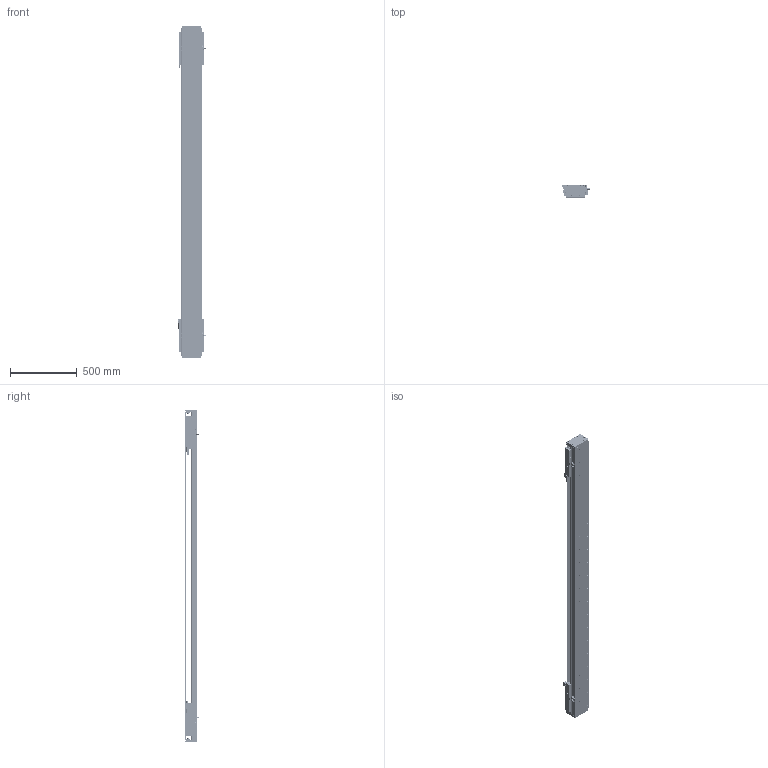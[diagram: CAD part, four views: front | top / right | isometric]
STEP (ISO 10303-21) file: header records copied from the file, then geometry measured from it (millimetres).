
FILE_DESCRIPTION (( 'STEP AP203' ), '1' );
FILE_NAME ('DA-C145-2-C3-T1880-C010-0.2 眻盄萇儂.STEP', '2025-08-13T10:24:45', ( '' ), ( '' ), 'SwSTEP 2.0', 'SolidWorks 2019', '' );
FILE_SCHEMA (( 'CONFIG_CONTROL_DESIGN' ));
Length unit declared in the file: millimetre
Products named in the file (38): 葩璃 DA95-GT-T-00^IU-CU145-L 菁釱絳寢; 葩璃 PM-Y65^DA-C145-2-C3-T-C010-0.2; DKW-GYP-ZJ-00 笢潔嫖萇覜茼え; 葩璃 PM-T45^DA-C145-2-C3-T-C010-0.2; 葩璃 DA145-C3-DP-A-00 菜えA^CU145-W 幗紩賑怢; 葩璃 DA145-C3-DP-B-00 菜えB^CU145-W 幗紩賑怢; DKW-KGZ-ZJ-00 中间光电开关支架; 复件 半圆头内六角螺钉 M3×6^CU145-W 滚珠滑台; 复件 内六角平端紧定螺钉 GB.T77-2000 M5×10^CU145-W 滚珠滑台; CU145-W 幗紩賑怢; 复件 DA95-HK-GT-00 滑块钢轨^CU145-W-00 一体化滑动台板; 葩璃 CKM03-W060-C1C2-TP-0.2^DA-C145-2-C3-T-C010-0.2; IU-CU145-L 菁釱絳寢; 复件 DA145-C3-YB-B-00 压板B^CU145-W 滚珠滑台; 复件 DA145-DG 钢带端盖^复件 CU145 钢带组件_DA-C145-2-C3-T-C010-0.2; 葩璃 DA95-HXJ-00 遣喳砎蝶^DA-C145-2-C3-T-C010-0.2; 葩璃 XD-U-02L 棠掑喜^DA-C145-2-C3-T-C010-0.2; CU145-W-00 珨极趙賑雄怢啣; 复件 DA145-C3-DK-00 挡块^CU145-W 滚珠滑台; CU145-W-00 珨极趙賑雄怢啣-1; 复件 DA146 钢带垫块^复件 CU145 钢带组件_DA-C145-2-C3-T-C010-0.2; DKW168-HXJ-ZJ-00 笢潔滅袉砎蝶; 66245-CU145-HT-W-00 賑雄怢啣(3D芞祧)(00); 复件 DA146 钢带拉块^复件 CU145 钢带组件_DA-C145-2-C3-T-C010-0.2; 葩璃 CKMA01-W060-TRL^DA-C145-2-C3-T-C010-0.2; DA-C145-2-C3-T1880-C010-0.2 眻盄萇儂; 复件 DA95-DB-00  挡板^CU145-W 滚珠滑台; CU145-W 幗紩賑怢-1; IU-CU145-L-00 菁釱(L2460); TAY01-M8; 葩璃 DMA-010-0.2 黍杅芛^DA-C145-2-C3-T-C010-0.2; 复件 DA145 钢带^复件 CU145 钢带组件_DA-C145-2-C3-T-C010-0.2; 复件 DA145-C3-YB-A-00 压板A^CU145-W 滚珠滑台; 葩璃 CU145 詩湍郪璃^DA-C145-2-C3-T-C010-0.2; 复件 DA95-MFP-01 密封片^CU145-W 滚珠滑台; 复件 DA145-GYP-00 光电感应片^DA-C145-2-C3-T-C010-0.2; 复件 纯铜油杯 6x6mm^CU145-W 滚珠滑台; 葩璃 鞠褒情蹟譫 M3^DA-C145-2-C3-T-C010-0.2
Assembly tree (180 placements, depth 4):
  DA-C145-2-C3-T1880-C010-0.2 眻盄萇儂
    IU-CU145-L 菁釱絳寢
      IU-CU145-L-00 菁釱(L2460)
      葩璃 DA95-GT-T-00^IU-CU145-L 菁釱絳寢  x4
    葩璃 CU145 詩湍郪璃^DA-C145-2-C3-T-C010-0.2
      复件 DA145-DG 钢带端盖^复件 CU145 钢带组件_DA-C145-2-C3-T-C010-0.2  x2
      复件 DA146 钢带拉块^复件 CU145 钢带组件_DA-C145-2-C3-T-C010-0.2  x2
      复件 DA146 钢带垫块^复件 CU145 钢带组件_DA-C145-2-C3-T-C010-0.2  x2
      复件 DA145 钢带^复件 CU145 钢带组件_DA-C145-2-C3-T-C010-0.2
    CU145-W 幗紩賑怢
      CU145-W-00 珨极趙賑雄怢啣
        66245-CU145-HT-W-00 賑雄怢啣(3D芞祧)(00)
        复件 DA95-HK-GT-00 滑块钢轨^CU145-W-00 一体化滑动台板  x8
      复件 DA95-MFP-01 密封片^CU145-W 滚珠滑台  x8
      复件 DA95-DB-00  挡板^CU145-W 滚珠滑台  x8
      复件 内六角平端紧定螺钉 GB.T77-2000 M5×10^CU145-W 滚珠滑台  x4
      复件 纯铜油杯 6x6mm^CU145-W 滚珠滑台  x4
      复件 半圆头内六角螺钉 M3×6^CU145-W 滚珠滑台  x16
      复件 DA145-C3-DK-00 挡块^CU145-W 滚珠滑台  x4
      葩璃 DA145-C3-DP-B-00 菜えB^CU145-W 幗紩賑怢  x2
      复件 DA145-C3-YB-B-00 压板B^CU145-W 滚珠滑台  x2
      葩璃 DA145-C3-DP-A-00 菜えA^CU145-W 幗紩賑怢  x3
      复件 DA145-C3-YB-A-00 压板A^CU145-W 滚珠滑台  x3
      TAY01-M8  x4
    CU145-W 幗紩賑怢-1
      CU145-W-00 珨极趙賑雄怢啣-1
        66245-CU145-HT-W-00 賑雄怢啣(3D芞祧)(00)
        复件 DA95-HK-GT-00 滑块钢轨^CU145-W-00 一体化滑动台板  x8
      复件 DA95-MFP-01 密封片^CU145-W 滚珠滑台  x8
      复件 DA95-DB-00  挡板^CU145-W 滚珠滑台  x8
      复件 内六角平端紧定螺钉 GB.T77-2000 M5×10^CU145-W 滚珠滑台  x4
      复件 纯铜油杯 6x6mm^CU145-W 滚珠滑台  x4
      复件 半圆头内六角螺钉 M3×6^CU145-W 滚珠滑台  x16
      复件 DA145-C3-DK-00 挡块^CU145-W 滚珠滑台  x4
      葩璃 DA145-C3-DP-B-00 菜えB^CU145-W 幗紩賑怢  x2
      复件 DA145-C3-YB-B-00 压板B^CU145-W 滚珠滑台  x2
      葩璃 DA145-C3-DP-A-00 菜えA^CU145-W 幗紩賑怢  x3
      复件 DA145-C3-YB-A-00 压板A^CU145-W 滚珠滑台  x3
      TAY01-M8  x4
    葩璃 CKMA01-W060-TRL^DA-C145-2-C3-T-C010-0.2
    葩璃 PM-T45^DA-C145-2-C3-T-C010-0.2  x4
    葩璃 XD-U-02L 棠掑喜^DA-C145-2-C3-T-C010-0.2
    葩璃 DA95-HXJ-00 遣喳砎蝶^DA-C145-2-C3-T-C010-0.2  x4
    葩璃 CKM03-W060-C1C2-TP-0.2^DA-C145-2-C3-T-C010-0.2  x2
    葩璃 DMA-010-0.2 黍杅芛^DA-C145-2-C3-T-C010-0.2  x2
    复件 DA145-GYP-00 光电感应片^DA-C145-2-C3-T-C010-0.2  x2
    DKW-GYP-ZJ-00 笢潔嫖萇覜茼え
    DKW-KGZ-ZJ-00 中间光电开关支架
    葩璃 PM-Y65^DA-C145-2-C3-T-C010-0.2
    葩璃 鞠褒情蹟譫 M3^DA-C145-2-C3-T-C010-0.2  x8
    DKW168-HXJ-ZJ-00 笢潔滅袉砎蝶
Bounding box: 213.7 x 108.45 x 2496 mm (x, y, z)
Volume: 13783145.8 mm3; surface area: 4334423 mm2
Topology: 175 solids, 239 shells, 7526 faces, 20307 edges, 12557 vertices
Faces by surface type: cylinder 3237, plane 2949, cone 1184, torus 140, sphere 8, bspline 8
Entity records: 137906 total; most frequent: CARTESIAN_POINT 39272, ORIENTED_EDGE 19300, DIRECTION 18507, EDGE_CURVE 9650, AXIS2_PLACEMENT_3D 6803, VERTEX_POINT 6256, VECTOR 4901, LINE 4901
